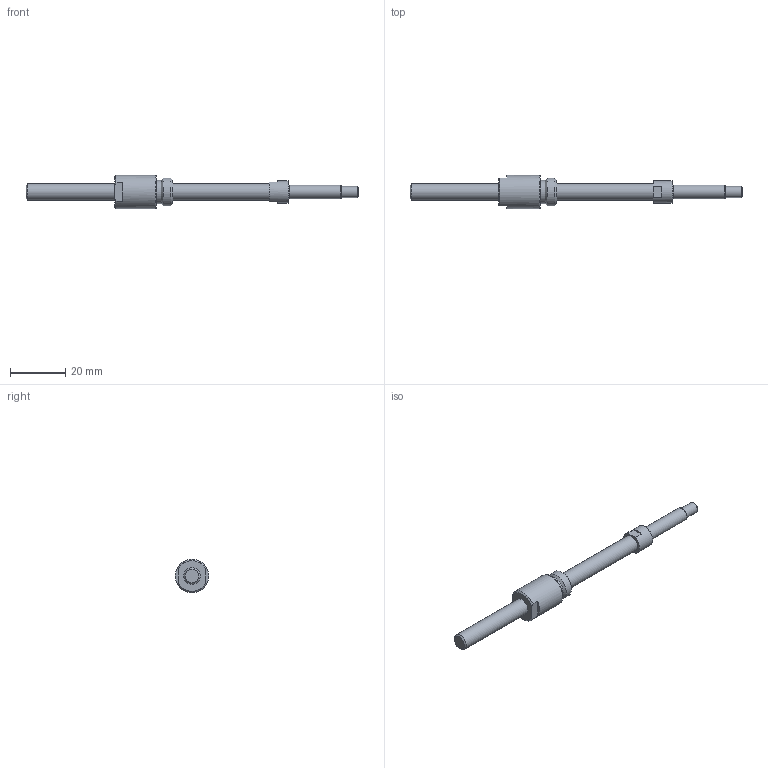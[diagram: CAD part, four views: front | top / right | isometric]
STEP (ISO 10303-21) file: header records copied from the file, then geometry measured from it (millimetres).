
FILE_DESCRIPTION(/* description */ ('STEP AP214'),/* implementation_level */ '2;1');
FILE_NAME(/* name */ 'NSG0602-085R120C5A0X(32)',/* time_stamp */ '2026-08-20T15:46:27+02:00',/* author */ ('License CC BY-ND 4.0'),/* organization */ ('CADENAS'),/* preprocessor_version */ 'ST-DEVELOPER v20',/* originating_system */ 'PARTsolutions',/* authorisation */ ' ');
FILE_SCHEMA (('AUTOMOTIVE_DESIGN {1 0 10303 214 3 1 1}'));
Length unit declared in the file: millimetre
Products named in the file (3): NSG0602-085R120C5A0X(32); NSG0602-85R120C3A_shaft; NSG0602_nut
Assembly tree (2 placements, depth 2):
  NSG0602-085R120C5A0X(32)
    NSG0602-85R120C3A_shaft
    NSG0602_nut
Bounding box: 120 x 12 x 12 mm (x, y, z)
Volume: 4761.1 mm3; surface area: 3605.3 mm2
Topology: 2 solids, 2 shells, 34 faces, 69 edges, 43 vertices
Faces by surface type: plane 16, cone 9, cylinder 8, torus 1
Full cylindrical faces by diameter (mm): 4 x1, 5 x1, 6 x2, 8 x1, 8.4 x1, 10 x1, 12 x1
Entity records: 877 total; most frequent: DIRECTION 152, CARTESIAN_POINT 141, ORIENTED_EDGE 102, AXIS2_PLACEMENT_3D 68, EDGE_LOOP 56, FACE_BOUND 56, EDGE_CURVE 51, VERTEX_POINT 41
